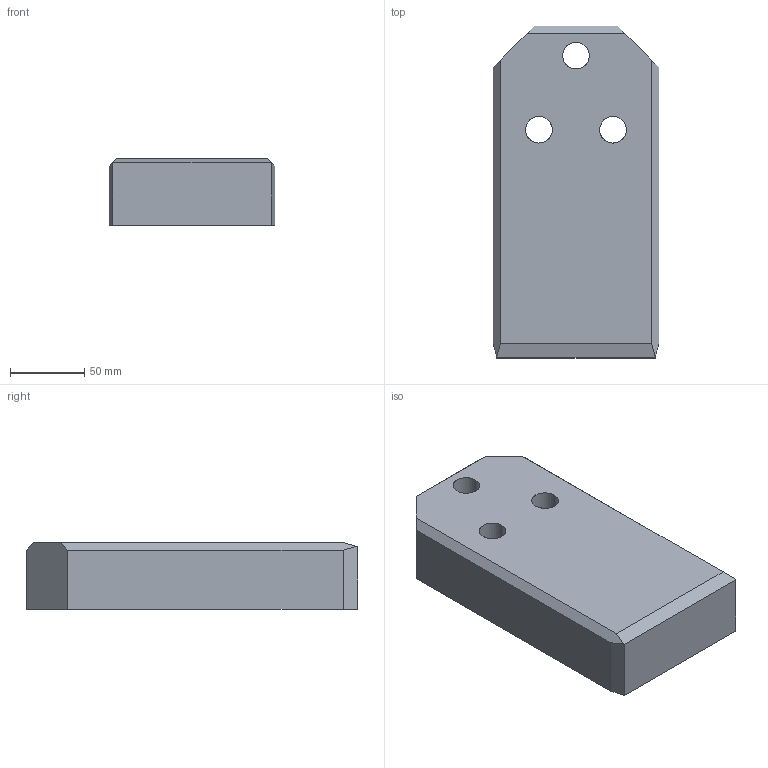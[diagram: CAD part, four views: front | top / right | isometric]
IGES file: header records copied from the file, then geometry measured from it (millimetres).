
Start section: START RECORD GO HERE.
Global section: file name: A927-112X224X45.igs; native system: DASSAULT SYSTEMES CATIA V5 R20 - www.3ds.com; preprocessor: CATIA Version 5 Release 20 ; author: Utente; organization: NB04-ASUS; date: 20200408.202331; units: millimetre
Bounding box: 112 x 224 x 45 mm (x, y, z)
Surface area: 82918.9 mm2 (no closed solid volume)
Topology: 0 solids, 0 shells, 35 faces, 168 edges, 168 vertices
Faces by surface type: revolution 18, extrusion 17
